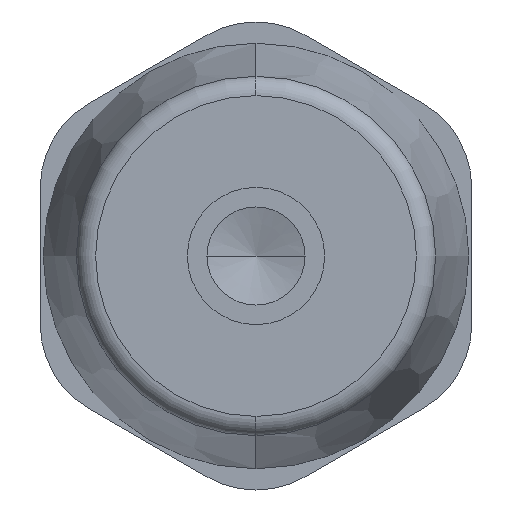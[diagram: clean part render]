
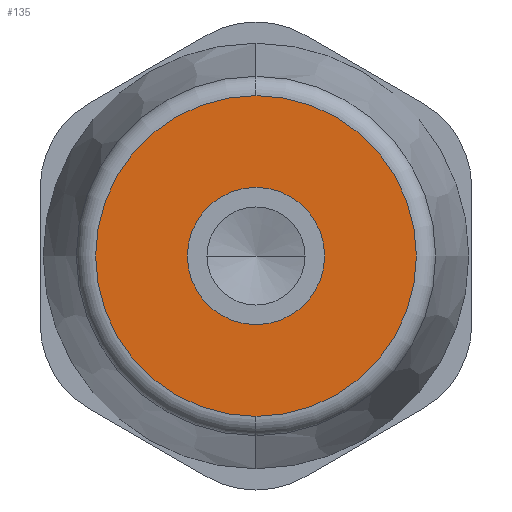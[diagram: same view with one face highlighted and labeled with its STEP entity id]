
A CAD part, front view. The second image highlights one B-rep face of the part: STEP entity #135.
In plain terms, the highlighted planar face has unit normal (0, -1, 0).
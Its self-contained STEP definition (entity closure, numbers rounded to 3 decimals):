
#66 = AXIS2_PLACEMENT_3D ( 'NONE', #1954, #1306, #1148 ) ;
#130 = DIRECTION ( 'NONE',  ( 0., 0., 1. ) ) ;
#135 = ADVANCED_FACE ( 'NONE', ( #1290, #1159 ), #1631, .F. ) ;
#157 = CARTESIAN_POINT ( 'NONE',  ( 0., 0., -8.176 ) ) ;
#284 = CIRCLE ( 'NONE', #1567, 3.5 ) ;
#401 = CIRCLE ( 'NONE', #1901, 8.176 ) ;
#588 = ORIENTED_EDGE ( 'NONE', *, *, #1945, .T. ) ;
#602 = DIRECTION ( 'NONE',  ( -1., 0., 0. ) ) ;
#638 = DIRECTION ( 'NONE',  ( 0., 0., 1. ) ) ;
#679 = CARTESIAN_POINT ( 'NONE',  ( 0., 0., 0. ) ) ;
#781 = CARTESIAN_POINT ( 'NONE',  ( 0., 0., 8.176 ) ) ;
#784 = EDGE_CURVE ( 'NONE', #1263, #908, #1347, .T. ) ;
#822 = DIRECTION ( 'NONE',  ( -1., 0., 0. ) ) ;
#839 = EDGE_CURVE ( 'NONE', #1203, #2028, #931, .T. ) ;
#855 = ORIENTED_EDGE ( 'NONE', *, *, #1950, .T. ) ;
#908 = VERTEX_POINT ( 'NONE', #1563 ) ;
#920 = EDGE_LOOP ( 'NONE', ( #1870, #588 ) ) ;
#931 = CIRCLE ( 'NONE', #1474, 8.176 ) ;
#1008 = AXIS2_PLACEMENT_3D ( 'NONE', #1573, #2048, #602 ) ;
#1148 = DIRECTION ( 'NONE',  ( 0., 0., 1. ) ) ;
#1159 = FACE_OUTER_BOUND ( 'NONE', #920, .T. ) ;
#1199 = CARTESIAN_POINT ( 'NONE',  ( 3.5, 0., 0. ) ) ;
#1203 = VERTEX_POINT ( 'NONE', #781 ) ;
#1261 = EDGE_LOOP ( 'NONE', ( #855, #1355 ) ) ;
#1263 = VERTEX_POINT ( 'NONE', #1199 ) ;
#1290 = FACE_BOUND ( 'NONE', #1261, .T. ) ;
#1306 = DIRECTION ( 'NONE',  ( 0., 1., 0. ) ) ;
#1347 = CIRCLE ( 'NONE', #1008, 3.5 ) ;
#1355 = ORIENTED_EDGE ( 'NONE', *, *, #784, .T. ) ;
#1474 = AXIS2_PLACEMENT_3D ( 'NONE', #1749, #1934, #130 ) ;
#1563 = CARTESIAN_POINT ( 'NONE',  ( -3.5, 0., 0. ) ) ;
#1567 = AXIS2_PLACEMENT_3D ( 'NONE', #1963, #1801, #822 ) ;
#1573 = CARTESIAN_POINT ( 'NONE',  ( 0., 0., 0. ) ) ;
#1631 = PLANE ( 'NONE',  #66 ) ;
#1749 = CARTESIAN_POINT ( 'NONE',  ( 0., 0., 0. ) ) ;
#1801 = DIRECTION ( 'NONE',  ( 0., 1., 0. ) ) ;
#1870 = ORIENTED_EDGE ( 'NONE', *, *, #839, .T. ) ;
#1901 = AXIS2_PLACEMENT_3D ( 'NONE', #679, #2086, #638 ) ;
#1934 = DIRECTION ( 'NONE',  ( 0., -1., 0. ) ) ;
#1945 = EDGE_CURVE ( 'NONE', #2028, #1203, #401, .T. ) ;
#1950 = EDGE_CURVE ( 'NONE', #908, #1263, #284, .T. ) ;
#1954 = CARTESIAN_POINT ( 'NONE',  ( 11., 0., -6.351 ) ) ;
#1963 = CARTESIAN_POINT ( 'NONE',  ( 0., 0., 0. ) ) ;
#2028 = VERTEX_POINT ( 'NONE', #157 ) ;
#2048 = DIRECTION ( 'NONE',  ( 0., 1., 0. ) ) ;
#2086 = DIRECTION ( 'NONE',  ( 0., -1., 0. ) ) ;
